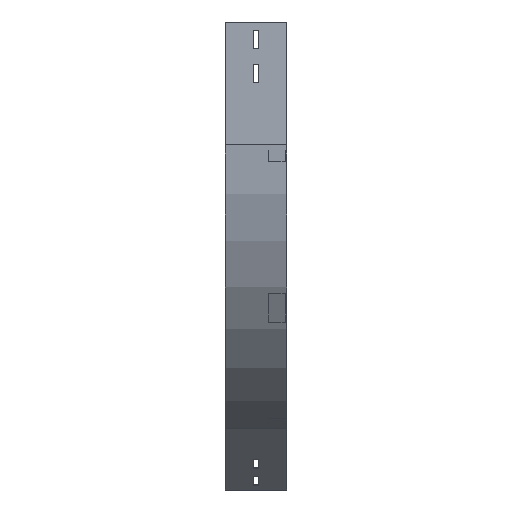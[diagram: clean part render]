
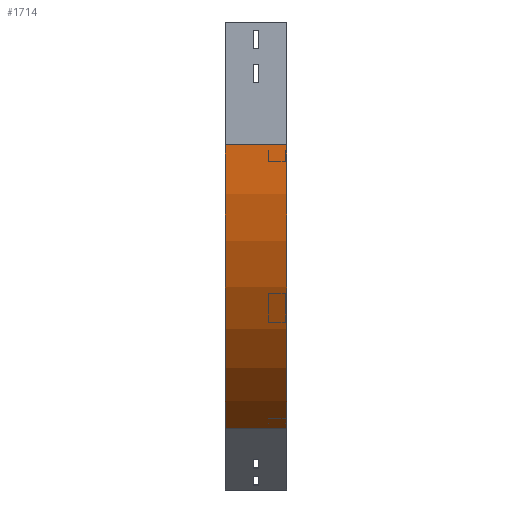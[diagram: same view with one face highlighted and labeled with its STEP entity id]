
A CAD part, left-side view. The second image highlights one B-rep face of the part: STEP entity #1714.
In plain terms, the highlighted cylindrical face has radius 400 mm (diameter 800 mm), a partial arc.
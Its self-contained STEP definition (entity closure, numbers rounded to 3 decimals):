
#17 = FACE_OUTER_BOUND ( 'NONE', #1408, .T. ) ;
#245 = CARTESIAN_POINT ( 'NONE',  ( 200., 0., -496.41 ) ) ;
#323 = CARTESIAN_POINT ( 'NONE',  ( 400., 0., -150. ) ) ;
#408 = CARTESIAN_POINT ( 'NONE',  ( 0., 75., -150. ) ) ;
#470 = VERTEX_POINT ( 'NONE', #969 ) ;
#471 = DIRECTION ( 'NONE',  ( 0., -1., 0. ) ) ;
#495 = VECTOR ( 'NONE', #2024, 1000. ) ;
#716 = DIRECTION ( 'NONE',  ( 0., -1., 0. ) ) ;
#820 = VERTEX_POINT ( 'NONE', #1742 ) ;
#851 = LINE ( 'NONE', #2626, #495 ) ;
#969 = CARTESIAN_POINT ( 'NONE',  ( 0., 0., -150. ) ) ;
#1042 = DIRECTION ( 'NONE',  ( -1., 0., 0. ) ) ;
#1082 = DIRECTION ( 'NONE',  ( -1., 0., 0. ) ) ;
#1195 = CIRCLE ( 'NONE', #2661, 400. ) ;
#1219 = VERTEX_POINT ( 'NONE', #3129 ) ;
#1284 = ORIENTED_EDGE ( 'NONE', *, *, #2594, .F. ) ;
#1342 = ORIENTED_EDGE ( 'NONE', *, *, #2518, .T. ) ;
#1408 = EDGE_LOOP ( 'NONE', ( #1284, #3751, #3823, #1342 ) ) ;
#1714 = ADVANCED_FACE ( 'NONE', ( #17 ), #2399, .T. ) ;
#1742 = CARTESIAN_POINT ( 'NONE',  ( 200., 0., -496.41 ) ) ;
#1927 = AXIS2_PLACEMENT_3D ( 'NONE', #323, #3847, #2975 ) ;
#1940 = CARTESIAN_POINT ( 'NONE',  ( 400., 75., -150. ) ) ;
#2008 = DIRECTION ( 'NONE',  ( 0., -1., 0. ) ) ;
#2024 = DIRECTION ( 'NONE',  ( 0., -1., 0. ) ) ;
#2237 = VECTOR ( 'NONE', #2008, 1000. ) ;
#2317 = LINE ( 'NONE', #245, #2237 ) ;
#2399 = CYLINDRICAL_SURFACE ( 'NONE', #1927, 400. ) ;
#2402 = VERTEX_POINT ( 'NONE', #408 ) ;
#2518 = EDGE_CURVE ( 'NONE', #1219, #820, #2317, .T. ) ;
#2594 = EDGE_CURVE ( 'NONE', #470, #820, #1195, .T. ) ;
#2626 = CARTESIAN_POINT ( 'NONE',  ( 0., 0., -150. ) ) ;
#2642 = EDGE_CURVE ( 'NONE', #2402, #1219, #3356, .T. ) ;
#2661 = AXIS2_PLACEMENT_3D ( 'NONE', #3737, #716, #1042 ) ;
#2975 = DIRECTION ( 'NONE',  ( 0., 0., -1. ) ) ;
#3129 = CARTESIAN_POINT ( 'NONE',  ( 200., 75., -496.41 ) ) ;
#3223 = AXIS2_PLACEMENT_3D ( 'NONE', #1940, #471, #1082 ) ;
#3356 = CIRCLE ( 'NONE', #3223, 400. ) ;
#3737 = CARTESIAN_POINT ( 'NONE',  ( 400., 0., -150. ) ) ;
#3751 = ORIENTED_EDGE ( 'NONE', *, *, #3810, .F. ) ;
#3810 = EDGE_CURVE ( 'NONE', #2402, #470, #851, .T. ) ;
#3823 = ORIENTED_EDGE ( 'NONE', *, *, #2642, .T. ) ;
#3847 = DIRECTION ( 'NONE',  ( 0., -1., 0. ) ) ;
